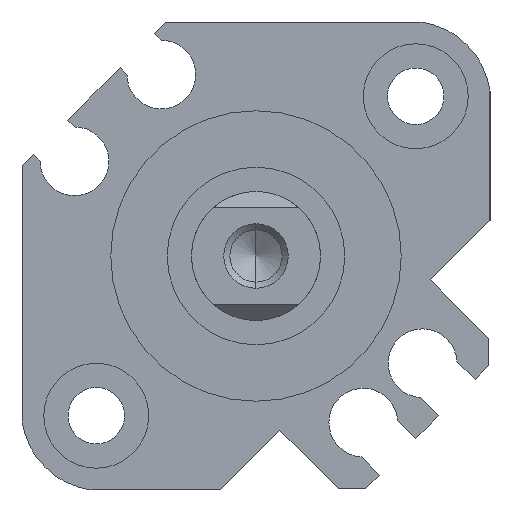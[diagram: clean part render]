
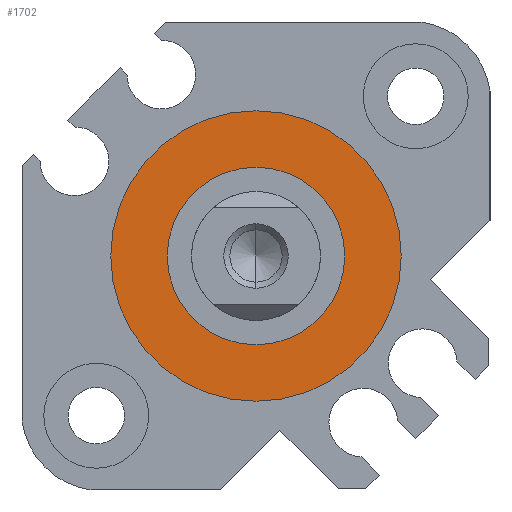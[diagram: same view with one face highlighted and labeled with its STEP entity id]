
A CAD part, left-side view. The second image highlights one B-rep face of the part: STEP entity #1702.
In plain terms, the highlighted planar face has unit normal (-1, 0, 0).
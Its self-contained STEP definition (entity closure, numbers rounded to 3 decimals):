
#1 = CIRCLE ( 'NONE', #2383, 9. ) ;
#3 = CARTESIAN_POINT ( 'NONE',  ( 1.1, 0., 0. ) ) ;
#54 = CARTESIAN_POINT ( 'NONE',  ( 1.1, 0., 9. ) ) ;
#70 = VERTEX_POINT ( 'NONE', #883 ) ;
#88 = ORIENTED_EDGE ( 'NONE', *, *, #1797, .T. ) ;
#112 = DIRECTION ( 'NONE',  ( 1., 0., 0. ) ) ;
#149 = CIRCLE ( 'NONE', #1355, 5.5 ) ;
#161 = CARTESIAN_POINT ( 'NONE',  ( 1.1, 0., -9. ) ) ;
#375 = DIRECTION ( 'NONE',  ( 0., 0., -1. ) ) ;
#390 = EDGE_CURVE ( 'NONE', #2842, #3216, #1, .T. ) ;
#588 = FACE_BOUND ( 'NONE', #656, .T. ) ;
#656 = EDGE_LOOP ( 'NONE', ( #88, #2906 ) ) ;
#691 = DIRECTION ( 'NONE',  ( 1., 0., 0. ) ) ;
#740 = AXIS2_PLACEMENT_3D ( 'NONE', #1481, #691, #3029 ) ;
#761 = EDGE_LOOP ( 'NONE', ( #796, #825 ) ) ;
#796 = ORIENTED_EDGE ( 'NONE', *, *, #2543, .F. ) ;
#825 = ORIENTED_EDGE ( 'NONE', *, *, #390, .F. ) ;
#841 = FACE_OUTER_BOUND ( 'NONE', #761, .T. ) ;
#883 = CARTESIAN_POINT ( 'NONE',  ( 1.1, 0., -5.5 ) ) ;
#946 = DIRECTION ( 'NONE',  ( 1., 0., 0. ) ) ;
#964 = AXIS2_PLACEMENT_3D ( 'NONE', #3, #2379, #2947 ) ;
#1166 = DIRECTION ( 'NONE',  ( 0., 1., 0. ) ) ;
#1168 = CARTESIAN_POINT ( 'NONE',  ( 1.1, 0., 0. ) ) ;
#1317 = VERTEX_POINT ( 'NONE', #1619 ) ;
#1355 = AXIS2_PLACEMENT_3D ( 'NONE', #3318, #946, #2001 ) ;
#1481 = CARTESIAN_POINT ( 'NONE',  ( 1.1, 0., 0. ) ) ;
#1582 = EDGE_CURVE ( 'NONE', #70, #1317, #3110, .T. ) ;
#1619 = CARTESIAN_POINT ( 'NONE',  ( 1.1, 0., 5.5 ) ) ;
#1702 = ADVANCED_FACE ( 'NONE', ( #841, #588 ), #3039, .F. ) ;
#1797 = EDGE_CURVE ( 'NONE', #1317, #70, #149, .T. ) ;
#2001 = DIRECTION ( 'NONE',  ( 0., 0., -1. ) ) ;
#2280 = DIRECTION ( 'NONE',  ( 1., 0., 0. ) ) ;
#2379 = DIRECTION ( 'NONE',  ( 1., 0., 0. ) ) ;
#2383 = AXIS2_PLACEMENT_3D ( 'NONE', #1168, #2280, #375 ) ;
#2543 = EDGE_CURVE ( 'NONE', #3216, #2842, #3007, .T. ) ;
#2842 = VERTEX_POINT ( 'NONE', #161 ) ;
#2906 = ORIENTED_EDGE ( 'NONE', *, *, #1582, .T. ) ;
#2947 = DIRECTION ( 'NONE',  ( 0., 0., -1. ) ) ;
#3007 = CIRCLE ( 'NONE', #740, 9. ) ;
#3029 = DIRECTION ( 'NONE',  ( 0., 0., -1. ) ) ;
#3039 = PLANE ( 'NONE',  #3063 ) ;
#3056 = CARTESIAN_POINT ( 'NONE',  ( 1.1, 0., 0. ) ) ;
#3063 = AXIS2_PLACEMENT_3D ( 'NONE', #3056, #112, #1166 ) ;
#3110 = CIRCLE ( 'NONE', #964, 5.5 ) ;
#3216 = VERTEX_POINT ( 'NONE', #54 ) ;
#3318 = CARTESIAN_POINT ( 'NONE',  ( 1.1, 0., 0. ) ) ;
